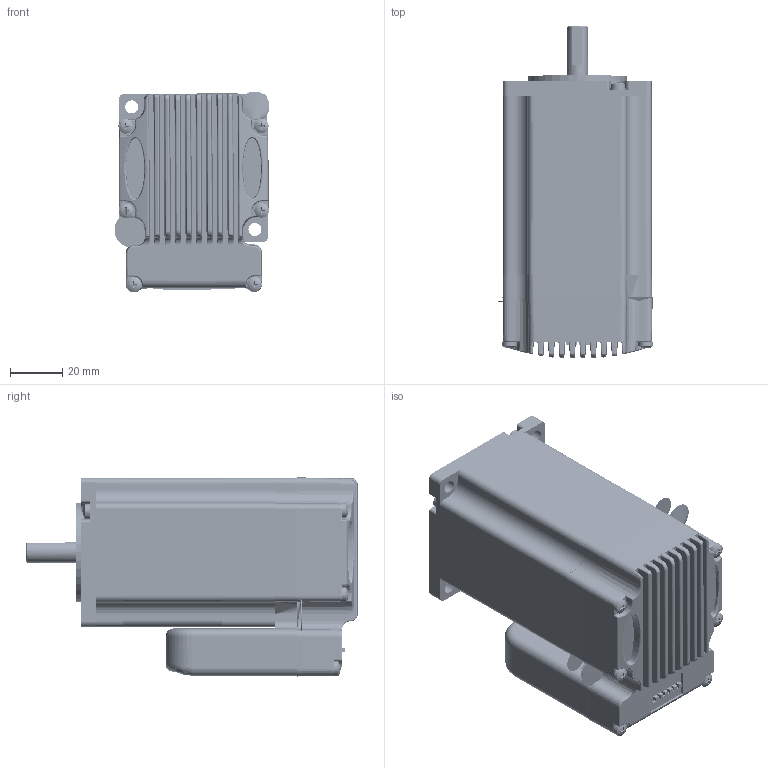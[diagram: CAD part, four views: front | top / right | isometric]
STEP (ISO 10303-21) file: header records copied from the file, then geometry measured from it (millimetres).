
FILE_DESCRIPTION((''),'2;1');
FILE_NAME('ASMISV57T_TY_ASM_ASM','2021-08-30T',('sunjun'),(''),'PRO/ENGINEER BY PARAMETRIC TECHNOLOGY CORPORATION, 2008090','PRO/ENGINEER BY PARAMETRIC TECHNOLOGY CORPORATION, 2008090','');
FILE_SCHEMA(('CONFIG_CONTROL_DESIGN'));
Products named in the file (29): CT_1; 960_1; 57AL_1; QG_1; FPCB_2; CONNECTOR_3_81MM6PIN_MALE_2; CONNECTOR_3_81MMCLOSED2PIN_MALE; 2_1; DPCB_1; BOMA_1; CPCB_2; LS22_2; LS10_2; LS2_5_2; ASM_PCB_ISV57T_ASM_7_ASM; ASMISV57T_TY_ASM_2_ASM; GB__T848-2002______A__3__0__5; GB__T818-2000______________M3__; GB__T276-94__________608-2Z; PRODUCT_8943; ______2__6; PRODUCT_4608; PRODUCT_34611; PRODUCT_327; GB__T276-94__________609-2Z; ____57ZWXB02-21_0803_ASM; _ISV5709V36C-S21V20; ISV5709V36C-S21V20_ASM; ASMISV57T_TY_ASM_ASM
Assembly tree (43 placements, depth 4):
  ASMISV57T_TY_ASM_ASM
    ASMISV57T_TY_ASM_2_ASM
      CT_1
      960_1
      57AL_1
      QG_1
      ASM_PCB_ISV57T_ASM_7_ASM
        FPCB_2
        CONNECTOR_3_81MM6PIN_MALE_2
        CONNECTOR_3_81MMCLOSED2PIN_MALE
        2_1
        DPCB_1
        BOMA_1
        CPCB_2
        LS22_2  x6
        LS10_2  x2
        LS2_5_2  x3
    ISV5709V36C-S21V20_ASM
      ____57ZWXB02-21_0803_ASM
        GB__T848-2002______A__3__0__5  x4
        GB__T818-2000______________M3__  x4
        GB__T276-94__________608-2Z
        PRODUCT_8943
        ______2__6  x2
        PRODUCT_4608
        PRODUCT_34611
        PRODUCT_327
        GB__T276-94__________609-2Z
      _ISV5709V36C-S21V20
Bounding box: 59.45 x 127.27 x 77.08 mm (x, y, z)
Volume: 147040.6 mm3; surface area: 145237.7 mm2
Topology: 37 solids, 38 shells, 3904 faces, 9930 edges, 6070 vertices
Faces by surface type: cone 1506, plane 1128, cylinder 765, sphere 240, torus 196, bspline 69
Full cylindrical faces by diameter (mm): 9.5 x2, 11.5 x2
Entity records: 91416 total; most frequent: CARTESIAN_POINT 26737, ORIENTED_EDGE 13712, DIRECTION 13440, EDGE_CURVE 6857, AXIS2_PLACEMENT_3D 5098, VERTEX_POINT 4408, VECTOR 3244, LINE 3244
